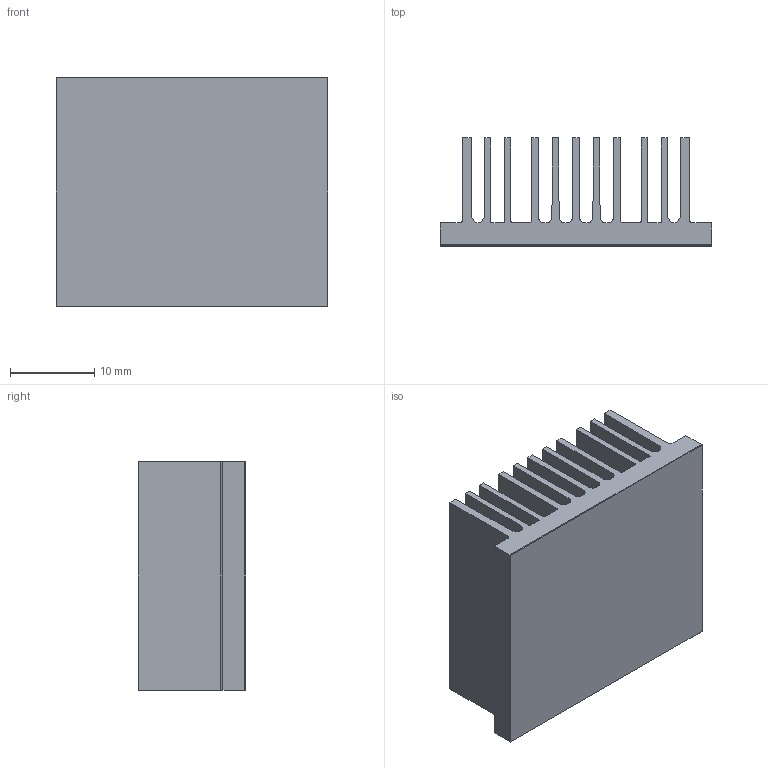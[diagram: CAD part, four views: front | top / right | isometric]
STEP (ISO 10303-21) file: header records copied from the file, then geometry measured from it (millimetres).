
FILE_DESCRIPTION (( 'STEP AP214' ), '1' );
FILE_NAME ('INH33001-12.7-2.6.STEP', '2023-02-17T18:06:05', ( '' ), ( '' ), 'SwSTEP 2.0', 'SolidWorks 2020', '' );
FILE_SCHEMA (( 'AUTOMOTIVE_DESIGN' ));
Length unit declared in the file: millimetre
Products named in the file (1): INH33001-12.7-2.6
Bounding box: 32.26 x 12.83 x 27.18 mm (x, y, z)
Volume: 4900.4 mm3; surface area: 9902.6 mm2
Topology: 2 solids, 2 shells, 72 faces, 204 edges, 136 vertices
Faces by surface type: plane 54, cylinder 18
Entity records: 3159 total; most frequent: CARTESIAN_POINT 413, ORIENTED_EDGE 408, DIRECTION 386, EDGE_CURVE 204, LINE 168, VECTOR 168, VERTEX_POINT 136, AXIS2_PLACEMENT_3D 109
